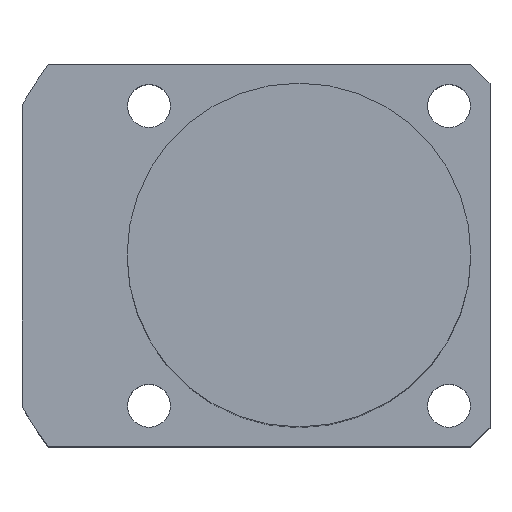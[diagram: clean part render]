
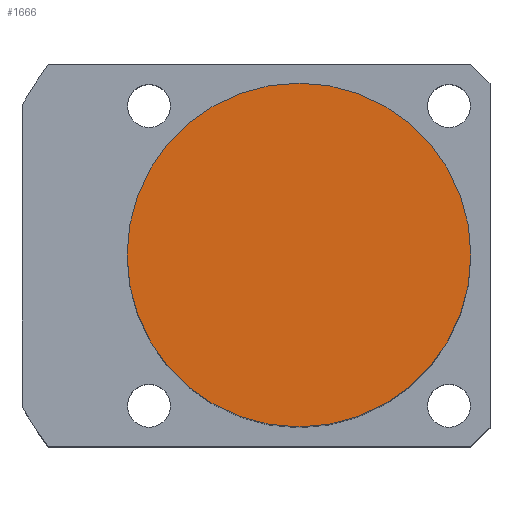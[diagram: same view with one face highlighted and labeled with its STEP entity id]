
A CAD part, top view. The second image highlights one B-rep face of the part: STEP entity #1666.
In plain terms, the highlighted planar face has unit normal (0, 0, 1).
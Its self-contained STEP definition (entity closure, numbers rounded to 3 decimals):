
#1610=CARTESIAN_POINT('',(0.0,-18.0,58.5));
#1611=VERTEX_POINT('',#1610);
#1618=CARTESIAN_POINT('',(-0.0,18.0,58.5));
#1619=VERTEX_POINT('',#1618);
#1620=CARTESIAN_POINT('',(0.0,0.0,58.5));
#1621=DIRECTION('',(0.0,0.0,1.0));
#1622=DIRECTION('',(1.0,0.0,0.0));
#1623=AXIS2_PLACEMENT_3D('',#1620,#1621,#1622);
#1624=CIRCLE('',#1623,18.0);
#1625=EDGE_CURVE('no 2073',#1619,#1611,#1624,.T.);
#1642=CARTESIAN_POINT('',(18.0,0.0,58.5));
#1643=VERTEX_POINT('',#1642);
#1644=CARTESIAN_POINT('',(0.0,0.0,58.5));
#1645=DIRECTION('',(0.0,0.0,1.0));
#1646=DIRECTION('',(1.0,0.0,0.0));
#1647=AXIS2_PLACEMENT_3D('',#1644,#1645,#1646);
#1648=CIRCLE('',#1647,18.0);
#1649=EDGE_CURVE('no 2088',#1643,#1619,#1648,.T.);
#1650=ORIENTED_EDGE('',*,*,#1649,.T.);
#1651=ORIENTED_EDGE('',*,*,#1625,.T.);
#1652=CARTESIAN_POINT('',(0.0,0.0,58.5));
#1653=DIRECTION('',(0.0,0.0,1.0));
#1654=DIRECTION('',(1.0,0.0,0.0));
#1655=AXIS2_PLACEMENT_3D('',#1652,#1653,#1654);
#1656=CIRCLE('',#1655,18.0);
#1657=EDGE_CURVE('no 2094',#1611,#1643,#1656,.T.);
#1658=ORIENTED_EDGE('',*,*,#1657,.T.);
#1659=EDGE_LOOP('',(#1650,#1651,#1658));
#1660=FACE_OUTER_BOUND('',#1659,.T.);
#1661=CARTESIAN_POINT('',(0.0,0.0,58.5));
#1662=DIRECTION('',(0.0,0.0,1.0));
#1663=DIRECTION('',(1.0,0.0,0.0));
#1664=AXIS2_PLACEMENT_3D('',#1661,#1662,#1663);
#1665=PLANE('',#1664);
#1666=ADVANCED_FACE('no 2081',(#1660),#1665,.T.);
